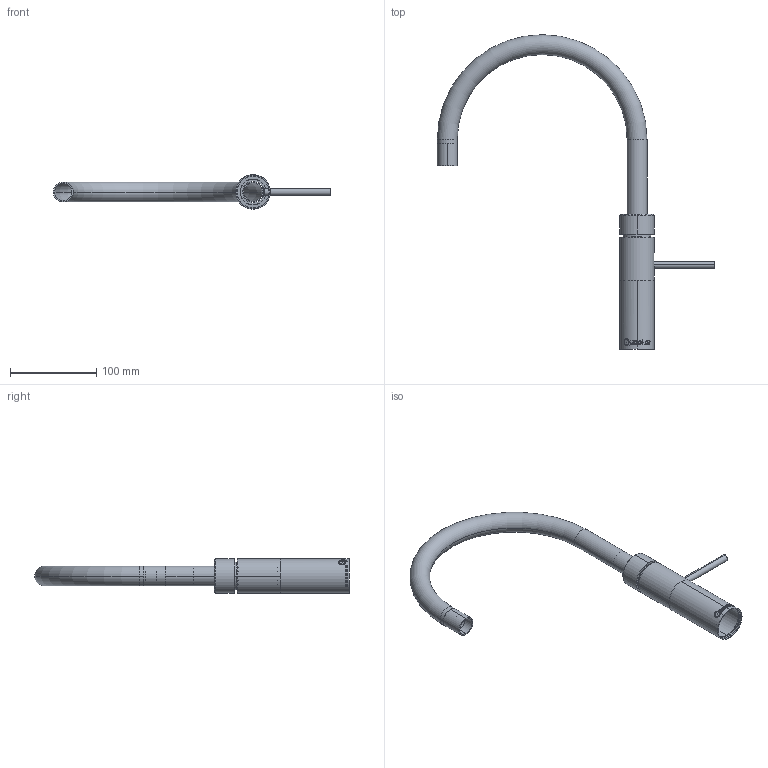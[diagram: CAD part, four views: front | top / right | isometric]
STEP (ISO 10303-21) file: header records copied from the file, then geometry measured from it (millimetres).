
FILE_DESCRIPTION (( 'STEP AP214' ), '1' );
FILE_NAME ('Fusion Round.STEP', '2016-11-17T11:09:14', ( '' ), ( '' ), 'SwSTEP 2.0', 'SolidWorks 2016', '' );
FILE_SCHEMA (( 'AUTOMOTIVE_DESIGN' ));
Length unit declared in the file: millimetre
Products named in the file (1): Fusion Round
Bounding box: 321.4 x 364.55 x 40 mm (x, y, z)
Surface area: 77778.9 mm2 (no closed solid volume)
Topology: 0 solids, 20 shells, 76 faces, 295 edges, 238 vertices
Faces by surface type: cylinder 51, plane 15, torus 6, bspline 2, cone 2
Entity records: 6808 total; most frequent: CARTESIAN_POINT 3696, ORIENTED_EDGE 410, DIRECTION 405, EDGE_CURVE 295, VERTEX_POINT 238, AXIS2_PLACEMENT_3D 175, B_SPLINE_CURVE_WITH_KNOTS 137, EDGE_LOOP 104
